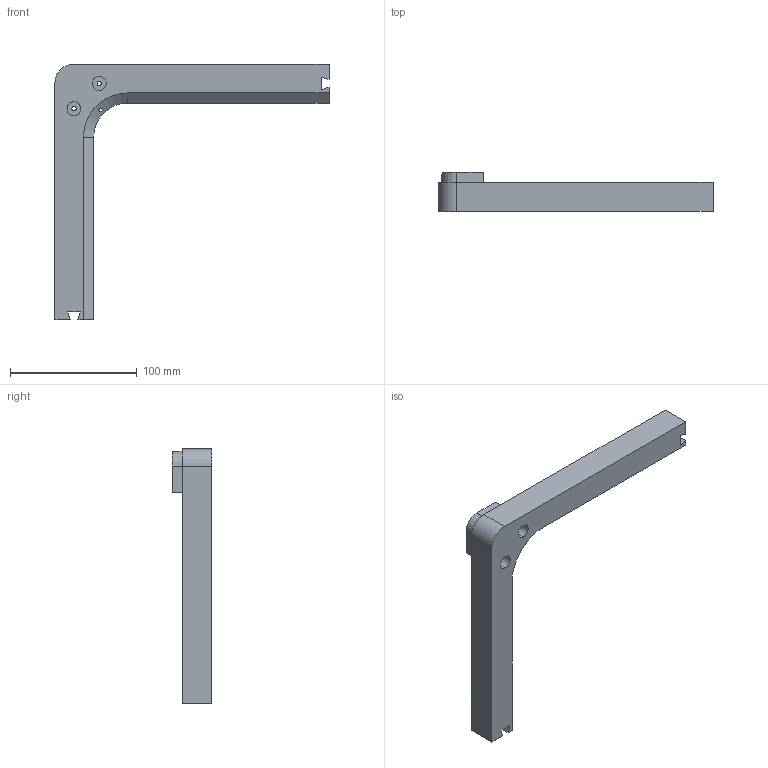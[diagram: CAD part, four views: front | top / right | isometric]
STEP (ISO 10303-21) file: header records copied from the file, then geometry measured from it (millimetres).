
FILE_DESCRIPTION (( 'STEP AP203' ), '1' );
FILE_NAME ('階翐A.STEP', '2026-06-27T08:46:39', ( '' ), ( '' ), 'SwSTEP 2.0', 'SolidWorks 2024', '' );
FILE_SCHEMA (( 'CONFIG_CONTROL_DESIGN' ));
Length unit declared in the file: millimetre
Products named in the file (1): 顶柱A
Bounding box: 216.5 x 31 x 201.5 mm (x, y, z)
Volume: 149604.8 mm3; surface area: 52255.9 mm2
Topology: 1 solids, 1 shells, 112 faces, 302 edges, 200 vertices
Faces by surface type: plane 72, cylinder 30, bspline 7, cone 3
Entity records: 3877 total; most frequent: CARTESIAN_POINT 944, ORIENTED_EDGE 604, DIRECTION 560, EDGE_CURVE 302, VECTOR 224, LINE 224, VERTEX_POINT 200, AXIS2_PLACEMENT_3D 168
